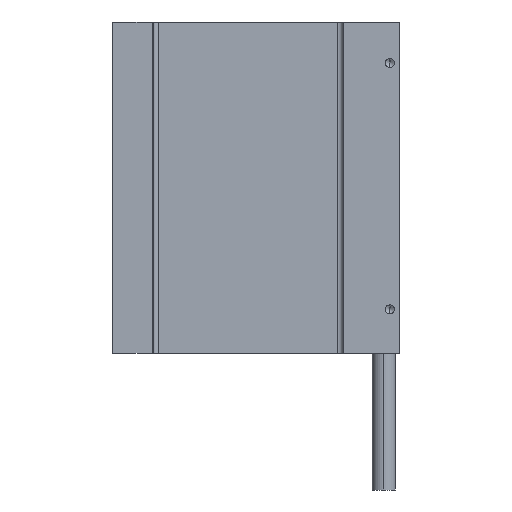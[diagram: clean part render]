
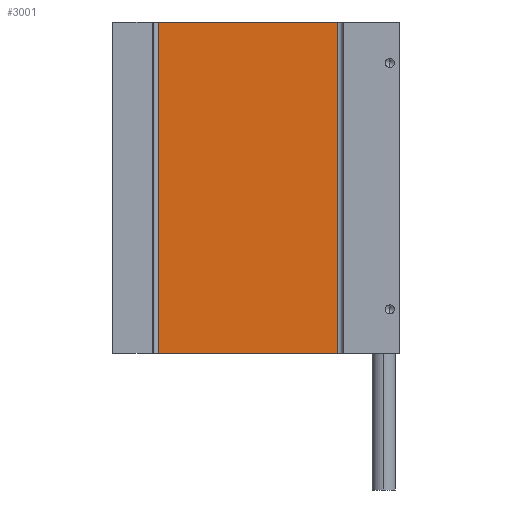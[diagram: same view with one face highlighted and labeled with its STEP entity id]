
A CAD part, left-side view. The second image highlights one B-rep face of the part: STEP entity #3001.
In plain terms, the highlighted planar face has unit normal (-1, 0, 0).
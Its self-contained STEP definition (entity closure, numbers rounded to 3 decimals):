
#50 = VECTOR ( 'NONE', #2113, 1000. ) ;
#139 = CARTESIAN_POINT ( 'NONE',  ( -6.6, 87.909, -60.5 ) ) ;
#142 = VECTOR ( 'NONE', #1761, 1000. ) ;
#214 = DIRECTION ( 'NONE',  ( 0., 0., 1. ) ) ;
#366 = VERTEX_POINT ( 'NONE', #1295 ) ;
#424 = EDGE_LOOP ( 'NONE', ( #3047, #972, #2750, #2058 ) ) ;
#443 = CARTESIAN_POINT ( 'NONE',  ( -6.6, 22.5, 60.5 ) ) ;
#549 = VERTEX_POINT ( 'NONE', #2678 ) ;
#796 = CARTESIAN_POINT ( 'NONE',  ( -6.6, 20.5, -60.5 ) ) ;
#972 = ORIENTED_EDGE ( 'NONE', *, *, #1852, .T. ) ;
#990 = LINE ( 'NONE', #139, #50 ) ;
#1039 = DIRECTION ( 'NONE',  ( 0., 1., 0. ) ) ;
#1196 = DIRECTION ( 'NONE',  ( 1., 0., 0. ) ) ;
#1295 = CARTESIAN_POINT ( 'NONE',  ( -6.6, 87.909, 60.5 ) ) ;
#1687 = FACE_OUTER_BOUND ( 'NONE', #424, .T. ) ;
#1727 = VECTOR ( 'NONE', #214, 1000. ) ;
#1747 = EDGE_CURVE ( 'NONE', #549, #1788, #2329, .T. ) ;
#1761 = DIRECTION ( 'NONE',  ( 0., -1., 0. ) ) ;
#1788 = VERTEX_POINT ( 'NONE', #2510 ) ;
#1852 = EDGE_CURVE ( 'NONE', #366, #549, #990, .T. ) ;
#1868 = CARTESIAN_POINT ( 'NONE',  ( -6.6, 20.5, 60.5 ) ) ;
#1881 = VECTOR ( 'NONE', #2717, 1000. ) ;
#1990 = VERTEX_POINT ( 'NONE', #443 ) ;
#2058 = ORIENTED_EDGE ( 'NONE', *, *, #2814, .T. ) ;
#2078 = AXIS2_PLACEMENT_3D ( 'NONE', #1868, #1196, #1039 ) ;
#2113 = DIRECTION ( 'NONE',  ( 0., 0., -1. ) ) ;
#2210 = LINE ( 'NONE', #2701, #1881 ) ;
#2329 = LINE ( 'NONE', #796, #142 ) ;
#2510 = CARTESIAN_POINT ( 'NONE',  ( -6.6, 22.5, -60.5 ) ) ;
#2678 = CARTESIAN_POINT ( 'NONE',  ( -6.6, 87.909, -60.5 ) ) ;
#2701 = CARTESIAN_POINT ( 'NONE',  ( -6.6, 20.5, 60.5 ) ) ;
#2717 = DIRECTION ( 'NONE',  ( 0., -1., 0. ) ) ;
#2750 = ORIENTED_EDGE ( 'NONE', *, *, #1747, .T. ) ;
#2814 = EDGE_CURVE ( 'NONE', #1788, #1990, #2930, .T. ) ;
#2878 = CARTESIAN_POINT ( 'NONE',  ( -6.6, 22.5, 60.5 ) ) ;
#2930 = LINE ( 'NONE', #2878, #1727 ) ;
#2944 = EDGE_CURVE ( 'NONE', #366, #1990, #2210, .T. ) ;
#3001 = ADVANCED_FACE ( 'NONE', ( #1687 ), #3113, .F. ) ;
#3047 = ORIENTED_EDGE ( 'NONE', *, *, #2944, .F. ) ;
#3113 = PLANE ( 'NONE',  #2078 ) ;
